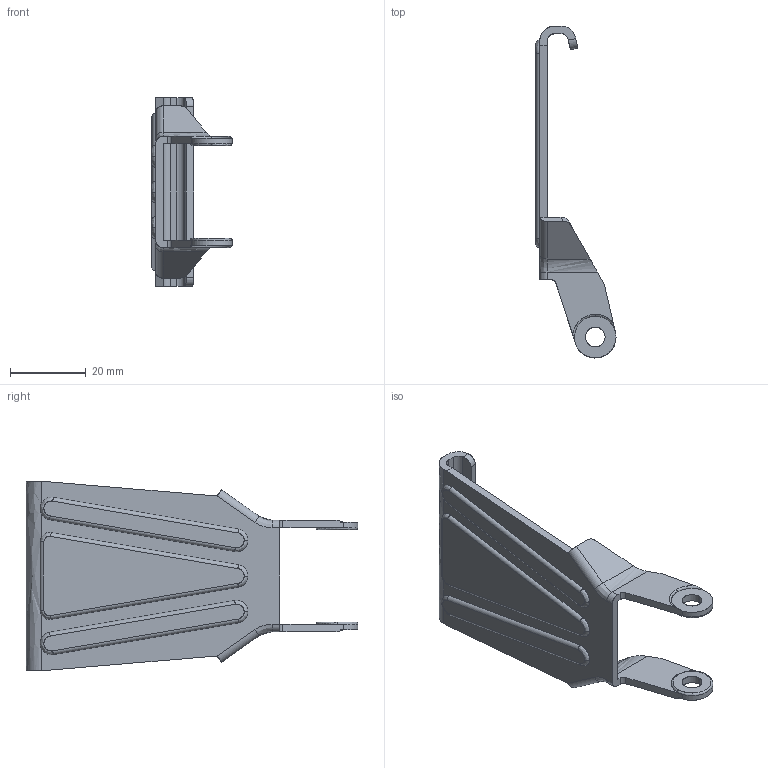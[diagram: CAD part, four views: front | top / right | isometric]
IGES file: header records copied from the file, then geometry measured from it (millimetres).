
Start section: SolidWorks IGES FILE using analytic representation for surfaces
Global section: file name: C:\WINNT\Profiles\cbrechard\Bureau\GE 52\50.030.10.IGS; native system: SolidWorks 2001Plus by SolidWorks Corporation; preprocessor: Version 5.3; author: CBRECHARD; date: 050125.134946; units: millimetre
Bounding box: 21.2 x 87.8 x 50 mm (x, y, z)
Surface area: 9532.4 mm2 (no closed solid volume)
Topology: 0 solids, 0 shells, 110 faces, 1432 edges, 1432 vertices
Faces by surface type: bspline 70, revolution 40
